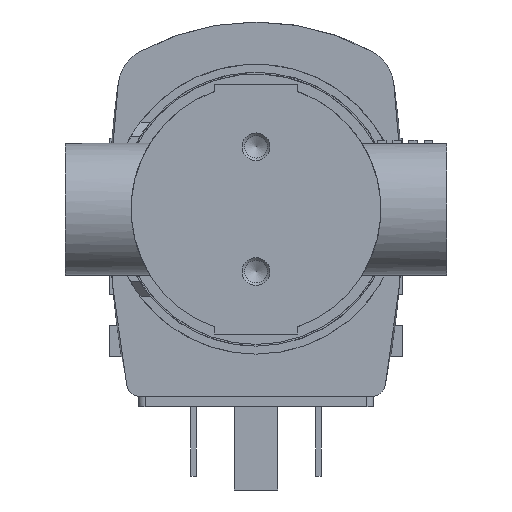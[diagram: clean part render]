
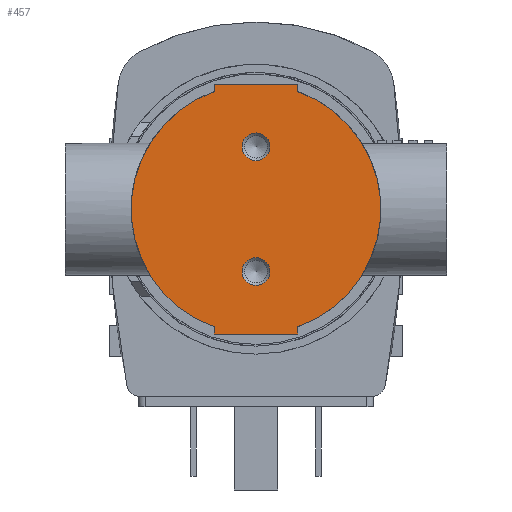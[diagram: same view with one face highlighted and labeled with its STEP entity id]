
A CAD part, front view. The second image highlights one B-rep face of the part: STEP entity #457.
In plain terms, the highlighted planar face has unit normal (0, -1, 0).
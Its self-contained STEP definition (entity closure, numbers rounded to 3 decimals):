
#457 = ADVANCED_FACE( '', ( #964, #965, #966 ), #967, .F. );
#964 = FACE_BOUND( '', #1521, .T. );
#965 = FACE_BOUND( '', #1522, .T. );
#966 = FACE_OUTER_BOUND( '', #1523, .T. );
#967 = PLANE( '', #1524 );
#1521 = EDGE_LOOP( '', ( #2648 ) );
#1522 = EDGE_LOOP( '', ( #2649 ) );
#1523 = EDGE_LOOP( '', ( #2650, #2651, #2652, #2653, #2654, #2655, #2656, #2657 ) );
#1524 = AXIS2_PLACEMENT_3D( '', #2658, #2659, #2660 );
#2648 = ORIENTED_EDGE( '', *, *, #3176, .T. );
#2649 = ORIENTED_EDGE( '', *, *, #3517, .T. );
#2650 = ORIENTED_EDGE( '', *, *, #3465, .T. );
#2651 = ORIENTED_EDGE( '', *, *, #3197, .F. );
#2652 = ORIENTED_EDGE( '', *, *, #3234, .F. );
#2653 = ORIENTED_EDGE( '', *, *, #3453, .T. );
#2654 = ORIENTED_EDGE( '', *, *, #3466, .T. );
#2655 = ORIENTED_EDGE( '', *, *, #3421, .T. );
#2656 = ORIENTED_EDGE( '', *, *, #3551, .T. );
#2657 = ORIENTED_EDGE( '', *, *, #3278, .F. );
#2658 = CARTESIAN_POINT( '', ( 18., -10., 0. ) );
#2659 = DIRECTION( '', ( 0., 1., 0. ) );
#2660 = DIRECTION( '', ( 0., 0., 1. ) );
#3176 = EDGE_CURVE( '', #3773, #3773, #3774, .T. );
#3197 = EDGE_CURVE( '', #3810, #3811, #3812, .T. );
#3234 = EDGE_CURVE( '', #3867, #3810, #3868, .T. );
#3278 = EDGE_CURVE( '', #3940, #3942, #3943, .T. );
#3421 = EDGE_CURVE( '', #4157, #4158, #4159, .T. );
#3453 = EDGE_CURVE( '', #3867, #4199, #4201, .T. );
#3465 = EDGE_CURVE( '', #3940, #3811, #4219, .T. );
#3466 = EDGE_CURVE( '', #4199, #4157, #4220, .T. );
#3517 = EDGE_CURVE( '', #4288, #4288, #4289, .T. );
#3551 = EDGE_CURVE( '', #4158, #3942, #4331, .T. );
#3773 = VERTEX_POINT( '', #4603 );
#3774 = CIRCLE( '', #4604, 2. );
#3810 = VERTEX_POINT( '', #4659 );
#3811 = VERTEX_POINT( '', #4660 );
#3812 = LINE( '', #4661, #4662 );
#3867 = VERTEX_POINT( '', #4747 );
#3868 = LINE( '', #4748, #4749 );
#3940 = VERTEX_POINT( '', #4864 );
#3942 = VERTEX_POINT( '', #4867 );
#3943 = LINE( '', #4868, #4869 );
#4157 = VERTEX_POINT( '', #5243 );
#4158 = VERTEX_POINT( '', #5244 );
#4159 = LINE( '', #5245, #5246 );
#4199 = VERTEX_POINT( '', #5300 );
#4201 = LINE( '', #5303, #5304 );
#4219 = CIRCLE( '', #5327, 18. );
#4220 = CIRCLE( '', #5328, 18. );
#4288 = VERTEX_POINT( '', #5620 );
#4289 = CIRCLE( '', #5621, 2. );
#4331 = LINE( '', #5673, #5674 );
#4603 = CARTESIAN_POINT( '', ( 0., -10., -7. ) );
#4604 = AXIS2_PLACEMENT_3D( '', #5906, #5907, #5908 );
#4659 = CARTESIAN_POINT( '', ( 6., -10., 18. ) );
#4660 = CARTESIAN_POINT( '', ( 6., -10., 16.971 ) );
#4661 = CARTESIAN_POINT( '', ( 6., -10., 18. ) );
#4662 = VECTOR( '', #5930, 1000. );
#4747 = CARTESIAN_POINT( '', ( -6., -10., 18. ) );
#4748 = CARTESIAN_POINT( '', ( -6., -10., 18. ) );
#4749 = VECTOR( '', #5960, 1000. );
#4864 = CARTESIAN_POINT( '', ( 6., -10., -16.971 ) );
#4867 = CARTESIAN_POINT( '', ( 6., -10., -18. ) );
#4868 = CARTESIAN_POINT( '', ( 6., -10., 18. ) );
#4869 = VECTOR( '', #6004, 1000. );
#5243 = CARTESIAN_POINT( '', ( -6., -10., -16.971 ) );
#5244 = CARTESIAN_POINT( '', ( -6., -10., -18. ) );
#5245 = CARTESIAN_POINT( '', ( -6., -10., 18. ) );
#5246 = VECTOR( '', #6184, 1000. );
#5300 = CARTESIAN_POINT( '', ( -6., -10., 16.971 ) );
#5303 = CARTESIAN_POINT( '', ( -6., -10., 18. ) );
#5304 = VECTOR( '', #6218, 1000. );
#5327 = AXIS2_PLACEMENT_3D( '', #6233, #6234, #6235 );
#5328 = AXIS2_PLACEMENT_3D( '', #6236, #6237, #6238 );
#5620 = CARTESIAN_POINT( '', ( 0., -10., 11. ) );
#5621 = AXIS2_PLACEMENT_3D( '', #6294, #6295, #6296 );
#5673 = CARTESIAN_POINT( '', ( -6., -10., -18. ) );
#5674 = VECTOR( '', #6328, 1000. );
#5906 = CARTESIAN_POINT( '', ( 0., -10., -9. ) );
#5907 = DIRECTION( '', ( 0., 1., 0. ) );
#5908 = DIRECTION( '', ( 0., 0., 1. ) );
#5930 = DIRECTION( '', ( 0., 0., -1. ) );
#5960 = DIRECTION( '', ( 1., 0., 0. ) );
#6004 = DIRECTION( '', ( 0., 0., -1. ) );
#6184 = DIRECTION( '', ( 0., 0., -1. ) );
#6218 = DIRECTION( '', ( 0., 0., -1. ) );
#6233 = CARTESIAN_POINT( '', ( 0., -10., 0. ) );
#6234 = DIRECTION( '', ( 0., -1., 0. ) );
#6235 = DIRECTION( '', ( 0., 0., -1. ) );
#6236 = CARTESIAN_POINT( '', ( 0., -10., 0. ) );
#6237 = DIRECTION( '', ( 0., -1., 0. ) );
#6238 = DIRECTION( '', ( 0., 0., -1. ) );
#6294 = CARTESIAN_POINT( '', ( 0., -10., 9. ) );
#6295 = DIRECTION( '', ( 0., 1., 0. ) );
#6296 = DIRECTION( '', ( 0., 0., 1. ) );
#6328 = DIRECTION( '', ( 1., 0., 0. ) );
